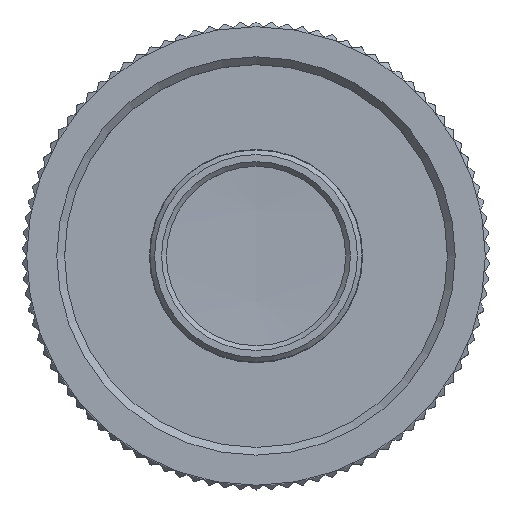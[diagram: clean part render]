
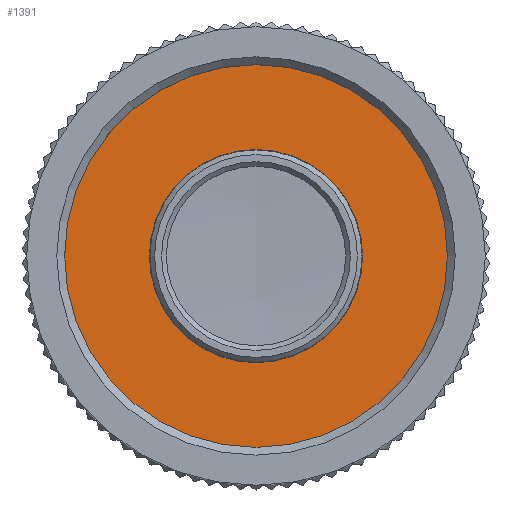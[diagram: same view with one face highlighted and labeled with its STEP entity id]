
A CAD part, top view. The second image highlights one B-rep face of the part: STEP entity #1391.
In plain terms, the highlighted planar face has unit normal (0, 0, 1).
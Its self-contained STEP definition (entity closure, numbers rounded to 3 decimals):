
#1391 = ADVANCED_FACE ( 'NONE', ( #1456, #3177 ), #4612, .F. ) ;
#1456 = FACE_BOUND ( 'NONE', #2226, .T. ) ;
#2226 = EDGE_LOOP ( 'NONE', ( #8577 ) ) ;
#2441 = AXIS2_PLACEMENT_3D ( 'NONE', #4348, #7598, #18902 ) ;
#3177 = FACE_OUTER_BOUND ( 'NONE', #10396, .T. ) ;
#3421 = CIRCLE ( 'NONE', #18406, 12.7 ) ;
#3943 = CARTESIAN_POINT ( 'NONE',  ( 12.7, 0., -4.5 ) ) ;
#4078 = CARTESIAN_POINT ( 'NONE',  ( 0., 0., -4.5 ) ) ;
#4348 = CARTESIAN_POINT ( 'NONE',  ( 0., 0., -4.5 ) ) ;
#4612 = PLANE ( 'NONE',  #17847 ) ;
#4876 = ORIENTED_EDGE ( 'NONE', *, *, #16302, .T. ) ;
#7598 = DIRECTION ( 'NONE',  ( 0., 0., -1. ) ) ;
#8148 = VERTEX_POINT ( 'NONE', #15826 ) ;
#8577 = ORIENTED_EDGE ( 'NONE', *, *, #8655, .T. ) ;
#8655 = EDGE_CURVE ( 'NONE', #8148, #8148, #17742, .T. ) ;
#9103 = CARTESIAN_POINT ( 'NONE',  ( 0., 6.8, -4.5 ) ) ;
#10396 = EDGE_LOOP ( 'NONE', ( #4876 ) ) ;
#11233 = VERTEX_POINT ( 'NONE', #3943 ) ;
#11367 = DIRECTION ( 'NONE',  ( 1., 0., 0. ) ) ;
#12811 = DIRECTION ( 'NONE',  ( 0., 0., 1. ) ) ;
#13158 = DIRECTION ( 'NONE',  ( 0., 0., -1. ) ) ;
#14964 = DIRECTION ( 'NONE',  ( -1., 0., 0. ) ) ;
#15826 = CARTESIAN_POINT ( 'NONE',  ( -6.833, 0., -4.5 ) ) ;
#16302 = EDGE_CURVE ( 'NONE', #11233, #11233, #3421, .T. ) ;
#17742 = CIRCLE ( 'NONE', #2441, 6.833 ) ;
#17847 = AXIS2_PLACEMENT_3D ( 'NONE', #9103, #13158, #14964 ) ;
#18406 = AXIS2_PLACEMENT_3D ( 'NONE', #4078, #12811, #11367 ) ;
#18902 = DIRECTION ( 'NONE',  ( -1., 0., 0. ) ) ;
